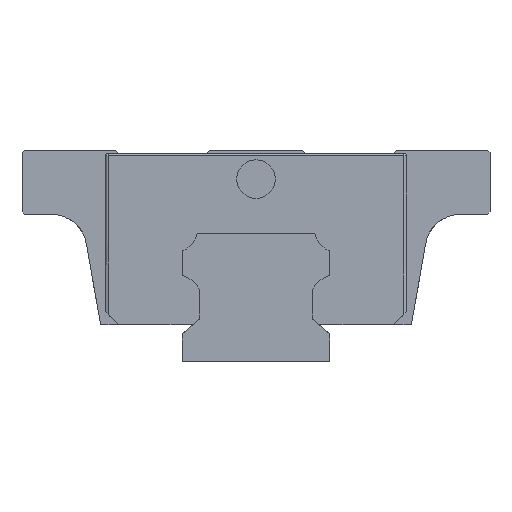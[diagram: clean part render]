
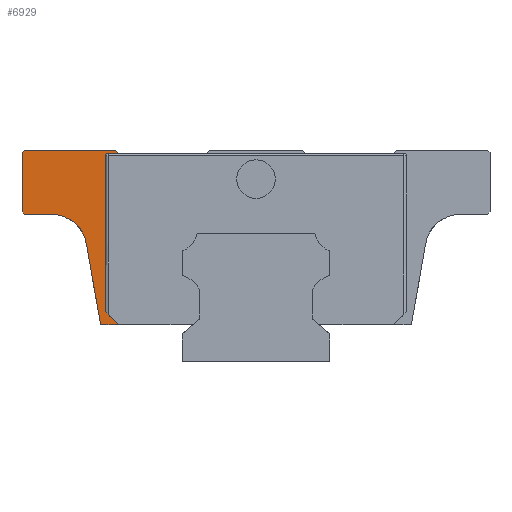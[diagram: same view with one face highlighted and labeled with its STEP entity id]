
A CAD part, left-side view. The second image highlights one B-rep face of the part: STEP entity #6929.
In plain terms, the highlighted planar face has unit normal (-1, 0, 0).
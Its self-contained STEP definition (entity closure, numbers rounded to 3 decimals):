
#17 = VECTOR ( 'NONE', #58, 1000. ) ;
#58 = DIRECTION ( 'NONE',  ( 0., -0.174, -0.985 ) ) ;
#190 = EDGE_CURVE ( 'NONE', #3009, #6425, #4214, .T. ) ;
#376 = CARTESIAN_POINT ( 'NONE',  ( -29.5, 4.463, -8.672 ) ) ;
#402 = ORIENTED_EDGE ( 'NONE', *, *, #4687, .T. ) ;
#515 = EDGE_CURVE ( 'NONE', #1773, #6729, #4127, .T. ) ;
#543 = ORIENTED_EDGE ( 'NONE', *, *, #728, .T. ) ;
#565 = CARTESIAN_POINT ( 'NONE',  ( -29.5, 27.269, 23. ) ) ;
#675 = ORIENTED_EDGE ( 'NONE', *, *, #190, .T. ) ;
#705 = CIRCLE ( 'NONE', #818, 5.5 ) ;
#728 = EDGE_CURVE ( 'NONE', #6028, #3009, #4556, .T. ) ;
#818 = AXIS2_PLACEMENT_3D ( 'NONE', #4385, #1755, #4965 ) ;
#874 = LINE ( 'NONE', #6430, #3092 ) ;
#902 = VECTOR ( 'NONE', #3880, 1000. ) ;
#906 = VECTOR ( 'NONE', #5313, 1000. ) ;
#982 = CARTESIAN_POINT ( 'NONE',  ( -29.5, 23.084, 32.135 ) ) ;
#1110 = CARTESIAN_POINT ( 'NONE',  ( -29.5, 36.5, 33. ) ) ;
#1135 = CARTESIAN_POINT ( 'NONE',  ( -29.5, 21.9, 33. ) ) ;
#1151 = ORIENTED_EDGE ( 'NONE', *, *, #515, .F. ) ;
#1220 = CARTESIAN_POINT ( 'NONE',  ( -29.5, 21.376, 32.375 ) ) ;
#1398 = VECTOR ( 'NONE', #5812, 1000. ) ;
#1401 = ORIENTED_EDGE ( 'NONE', *, *, #4254, .T. ) ;
#1425 = DIRECTION ( 'NONE',  ( 0., 0., -1. ) ) ;
#1539 = VECTOR ( 'NONE', #6121, 1000. ) ;
#1755 = DIRECTION ( 'NONE',  ( 1., 0., 0. ) ) ;
#1773 = VERTEX_POINT ( 'NONE', #2031 ) ;
#1922 = LINE ( 'NONE', #3427, #5091 ) ;
#2031 = CARTESIAN_POINT ( 'NONE',  ( -29.5, 23.449, 32.135 ) ) ;
#2057 = VERTEX_POINT ( 'NONE', #6846 ) ;
#2068 = DIRECTION ( 'NONE',  ( 0., -1., 0. ) ) ;
#2070 = ORIENTED_EDGE ( 'NONE', *, *, #3915, .T. ) ;
#2072 = VECTOR ( 'NONE', #5013, 1000. ) ;
#2108 = DIRECTION ( 'NONE',  ( 1., 0., 0. ) ) ;
#2159 = LINE ( 'NONE', #2662, #2072 ) ;
#2248 = VERTEX_POINT ( 'NONE', #5947 ) ;
#2423 = CARTESIAN_POINT ( 'NONE',  ( -29.5, 23.449, 7.8 ) ) ;
#2472 = CARTESIAN_POINT ( 'NONE',  ( -29.5, 23.084, 32.5 ) ) ;
#2555 = VERTEX_POINT ( 'NONE', #4235 ) ;
#2562 = CARTESIAN_POINT ( 'NONE',  ( -29.5, -24.589, 32.5 ) ) ;
#2662 = CARTESIAN_POINT ( 'NONE',  ( -29.5, 23.449, 7.8 ) ) ;
#2705 = EDGE_LOOP ( 'NONE', ( #7094, #402, #543, #675, #5024, #4401, #1401, #3464, #5842, #5055, #3765, #1151, #2070 ) ) ;
#2788 = LINE ( 'NONE', #565, #17 ) ;
#2910 = VECTOR ( 'NONE', #1425, 1000. ) ;
#3009 = VERTEX_POINT ( 'NONE', #4107 ) ;
#3092 = VECTOR ( 'NONE', #2068, 1000. ) ;
#3237 = EDGE_CURVE ( 'NONE', #6425, #2057, #5618, .T. ) ;
#3291 = VERTEX_POINT ( 'NONE', #2472 ) ;
#3427 = CARTESIAN_POINT ( 'NONE',  ( -29.5, 36.5, 23. ) ) ;
#3464 = ORIENTED_EDGE ( 'NONE', *, *, #3592, .T. ) ;
#3592 = EDGE_CURVE ( 'NONE', #6744, #4806, #705, .T. ) ;
#3698 = EDGE_CURVE ( 'NONE', #4806, #2248, #2788, .T. ) ;
#3765 = ORIENTED_EDGE ( 'NONE', *, *, #6068, .F. ) ;
#3828 = DIRECTION ( 'NONE',  ( 0., 0., 1. ) ) ;
#3880 = DIRECTION ( 'NONE',  ( 0., 0., -1. ) ) ;
#3894 = EDGE_CURVE ( 'NONE', #2057, #4478, #4232, .T. ) ;
#3915 = EDGE_CURVE ( 'NONE', #1773, #3291, #4732, .T. ) ;
#4107 = CARTESIAN_POINT ( 'NONE',  ( -29.5, 36.135, 33. ) ) ;
#4127 = LINE ( 'NONE', #5760, #2910 ) ;
#4195 = CARTESIAN_POINT ( 'NONE',  ( -29.5, 31.884, 23. ) ) ;
#4214 = LINE ( 'NONE', #6417, #4444 ) ;
#4229 = CARTESIAN_POINT ( 'NONE',  ( -29.5, -10.009, 5.8 ) ) ;
#4232 = LINE ( 'NONE', #376, #5084 ) ;
#4235 = CARTESIAN_POINT ( 'NONE',  ( -29.5, 21.449, 5.8 ) ) ;
#4254 = EDGE_CURVE ( 'NONE', #4478, #6744, #1922, .T. ) ;
#4298 = AXIS2_PLACEMENT_3D ( 'NONE', #4229, #5964, #3828 ) ;
#4302 = PLANE ( 'NONE',  #4298 ) ;
#4306 = DIRECTION ( 'NONE',  ( 0., 0., 1. ) ) ;
#4385 = CARTESIAN_POINT ( 'NONE',  ( -29.5, 31.884, 17.5 ) ) ;
#4401 = ORIENTED_EDGE ( 'NONE', *, *, #3894, .T. ) ;
#4444 = VECTOR ( 'NONE', #5338, 1000. ) ;
#4478 = VERTEX_POINT ( 'NONE', #6069 ) ;
#4556 = LINE ( 'NONE', #1135, #1539 ) ;
#4687 = EDGE_CURVE ( 'NONE', #5475, #6028, #6713, .T. ) ;
#4732 = CIRCLE ( 'NONE', #4971, 0.365 ) ;
#4755 = CARTESIAN_POINT ( 'NONE',  ( -29.5, 21.9, 33. ) ) ;
#4806 = VERTEX_POINT ( 'NONE', #5266 ) ;
#4919 = FACE_OUTER_BOUND ( 'NONE', #2705, .T. ) ;
#4965 = DIRECTION ( 'NONE',  ( 0., 0., 1. ) ) ;
#4971 = AXIS2_PLACEMENT_3D ( 'NONE', #982, #2108, #4306 ) ;
#5013 = DIRECTION ( 'NONE',  ( 0., -0.707, -0.707 ) ) ;
#5024 = ORIENTED_EDGE ( 'NONE', *, *, #3237, .T. ) ;
#5055 = ORIENTED_EDGE ( 'NONE', *, *, #5589, .T. ) ;
#5084 = VECTOR ( 'NONE', #5358, 1000. ) ;
#5091 = VECTOR ( 'NONE', #5783, 1000. ) ;
#5170 = CARTESIAN_POINT ( 'NONE',  ( -29.5, 21.48, 32.5 ) ) ;
#5266 = CARTESIAN_POINT ( 'NONE',  ( -29.5, 26.468, 18.455 ) ) ;
#5298 = CARTESIAN_POINT ( 'NONE',  ( -29.5, 36.5, 32.635 ) ) ;
#5313 = DIRECTION ( 'NONE',  ( 0., 1., 0. ) ) ;
#5338 = DIRECTION ( 'NONE',  ( 0., 0.707, -0.707 ) ) ;
#5358 = DIRECTION ( 'NONE',  ( 0., -0.707, -0.707 ) ) ;
#5385 = LINE ( 'NONE', #2562, #906 ) ;
#5475 = VERTEX_POINT ( 'NONE', #5170 ) ;
#5536 = EDGE_CURVE ( 'NONE', #5475, #3291, #5385, .T. ) ;
#5589 = EDGE_CURVE ( 'NONE', #2248, #2555, #874, .T. ) ;
#5618 = LINE ( 'NONE', #1110, #902 ) ;
#5760 = CARTESIAN_POINT ( 'NONE',  ( -29.5, 23.449, 31.75 ) ) ;
#5783 = DIRECTION ( 'NONE',  ( 0., -1., 0. ) ) ;
#5812 = DIRECTION ( 'NONE',  ( 0., 0.643, 0.766 ) ) ;
#5842 = ORIENTED_EDGE ( 'NONE', *, *, #3698, .T. ) ;
#5947 = CARTESIAN_POINT ( 'NONE',  ( -29.5, 24.236, 5.8 ) ) ;
#5964 = DIRECTION ( 'NONE',  ( -1., 0., 0. ) ) ;
#6028 = VERTEX_POINT ( 'NONE', #4755 ) ;
#6068 = EDGE_CURVE ( 'NONE', #6729, #2555, #2159, .T. ) ;
#6069 = CARTESIAN_POINT ( 'NONE',  ( -29.5, 36.135, 23. ) ) ;
#6121 = DIRECTION ( 'NONE',  ( 0., 1., 0. ) ) ;
#6417 = CARTESIAN_POINT ( 'NONE',  ( -29.5, 26.663, 42.472 ) ) ;
#6425 = VERTEX_POINT ( 'NONE', #5298 ) ;
#6430 = CARTESIAN_POINT ( 'NONE',  ( -29.5, 24.236, 5.8 ) ) ;
#6713 = LINE ( 'NONE', #1220, #1398 ) ;
#6729 = VERTEX_POINT ( 'NONE', #2423 ) ;
#6744 = VERTEX_POINT ( 'NONE', #4195 ) ;
#6846 = CARTESIAN_POINT ( 'NONE',  ( -29.5, 36.5, 23.365 ) ) ;
#6929 = ADVANCED_FACE ( 'NONE', ( #4919 ), #4302, .T. ) ;
#7094 = ORIENTED_EDGE ( 'NONE', *, *, #5536, .F. ) ;
